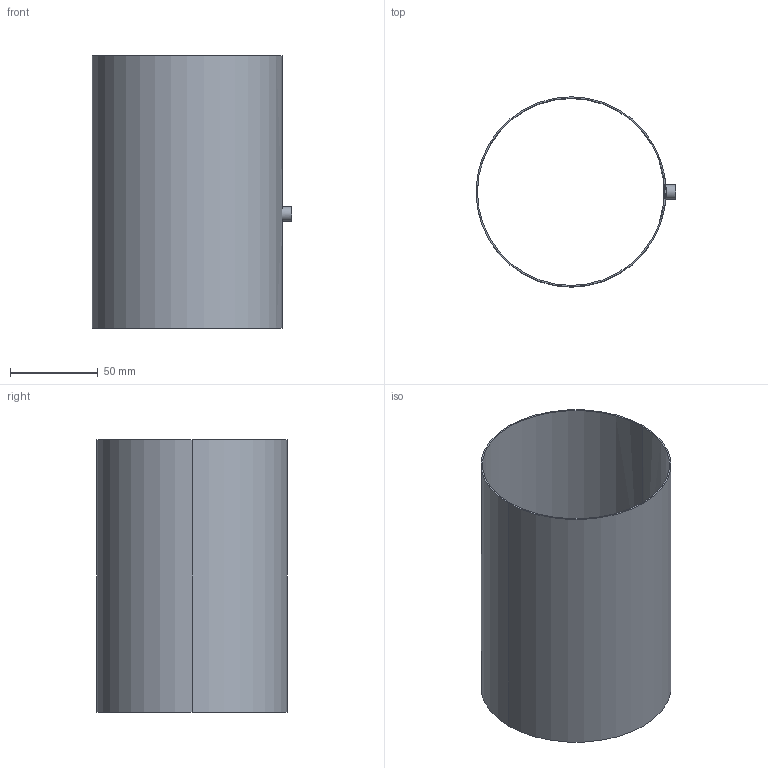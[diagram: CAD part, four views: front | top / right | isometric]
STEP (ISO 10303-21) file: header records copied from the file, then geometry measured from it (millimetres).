
FILE_DESCRIPTION(('BendCAD AP242 PMI export'),'2;1');
FILE_NAME('bendcad.step','',('BendCAD'),('BendCAD'),'BendCAD','BendCAD','');
FILE_SCHEMA(('AP242_MANAGED_MODEL_BASED_3D_ENGINEERING_MIM_LF'));
Length unit declared in the file: millimetre
Products named in the file (1): BENDCAD
Bounding box: 113.6 x 108 x 155 mm (x, y, z)
Volume: 41971 mm3; surface area: 105156.5 mm2
Topology: 1 solids, 1 shells, 14 faces, 348 edges, 332 vertices
Faces by surface type: cylinder 8, plane 6
Full cylindrical faces by diameter (mm): 2.6 x1, 4.2 x1, 8 x2
Entity records: 3548 total; most frequent: CARTESIAN_POINT 1639, ORIENTED_EDGE 688, EDGE_CURVE 344, VERTEX_POINT 332, B_SPLINE_CURVE_WITH_KNOTS 320, DIRECTION 66, AXIS2_PLACEMENT_3D 27, EDGE_LOOP 20
